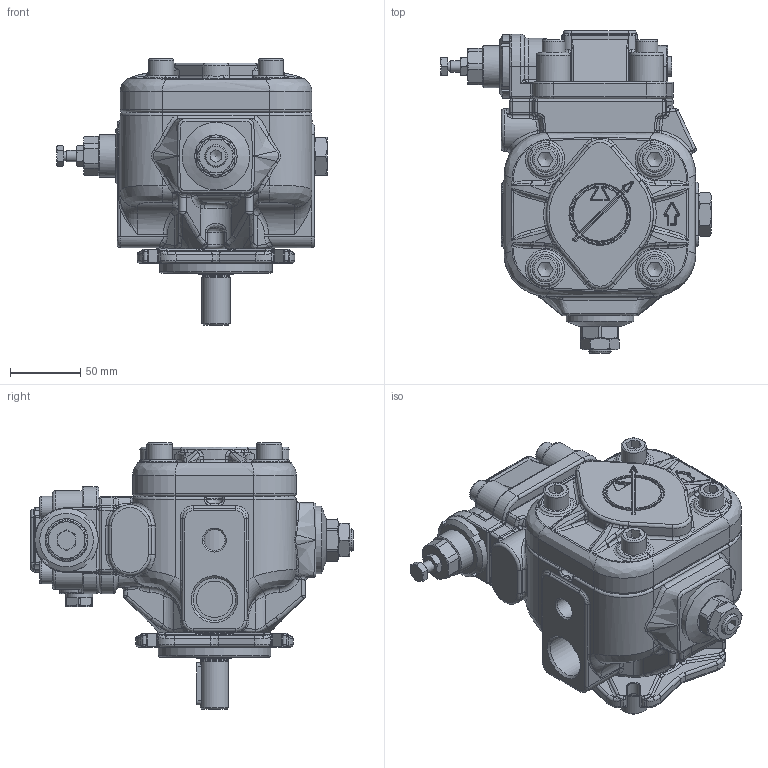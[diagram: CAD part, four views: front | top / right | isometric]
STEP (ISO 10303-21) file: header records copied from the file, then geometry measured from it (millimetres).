
FILE_DESCRIPTION(/* description */ (''),/* implementation_level */ '2;1');
FILE_NAME(/* name */ 'W:\Tecnico\Archivio\Berarma\Dimensioni Pompe\3D Export\Montaggio 3D semplificato\PLP-PHP 05\PHP05 FHRM.stp',/* time_stamp */ '2018-10-10T15:03:40+02:00',/* author */ ('marcop'),/* organization */ (''),/* preprocessor_version */ 'ST-DEVELOPER v17',/* originating_system */ 'Autodesk Inventor 2018',/* authorisation */ '');
FILE_SCHEMA (('AUTOMOTIVE_DESIGN { 1 0 10303 214 3 1 1 }'));
Products named in the file (1): PHP05_Shrinkwrap_1
Bounding box: 192 x 229.1 x 189 mm (x, y, z)
Volume: 2076419.1 mm3; surface area: 210466.6 mm2
Topology: 2 solids, 2 shells, 1971 faces, 4812 edges, 2831 vertices
Faces by surface type: plane 511, cylinder 463, bspline 444, torus 295, cone 203, sphere 55
Full cylindrical faces by diameter (mm): 1.7 x4, 2.5 x1, 6 x1, 6.5 x2, 8 x1, 8.5 x4, 9 x4, 12 x2, 13 x1, 14 x1, 14.5 x1, 14.95 x1, 15 x1, 15.5 x1, 16 x5, 16.376 x1, 16.5 x4, 17 x1, 18 x5, 19 x2, 19.5 x1, 20 x2, 24.117 x1, 25 x1, 26 x1, 28 x2, 30 x2, 30.291 x1, 35 x1, 40 x1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
Entity records: 73429 total; most frequent: CARTESIAN_POINT 28185, ORIENTED_EDGE 9438, DIRECTION 8699, EDGE_CURVE 4719, AXIS2_PLACEMENT_3D 3656, VERTEX_POINT 2831, CIRCLE 2088, EDGE_LOOP 2052
